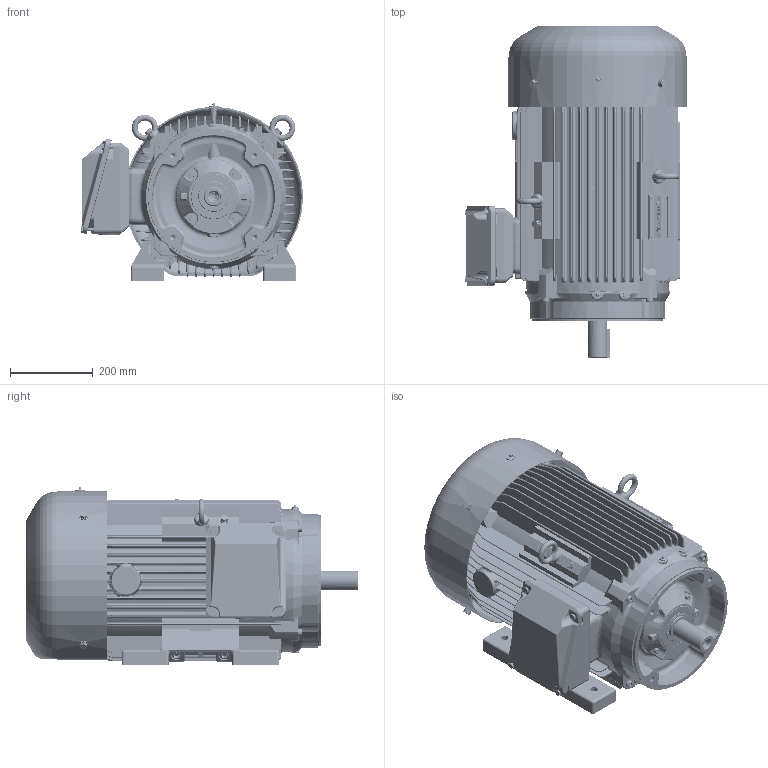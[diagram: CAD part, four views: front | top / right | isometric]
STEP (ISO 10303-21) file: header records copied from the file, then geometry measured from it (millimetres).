
FILE_DESCRIPTION(/* description */ ('Unknown','CAx-IF Rec.Pracs.---Representation and Presentation of Product Manufacturing Information (PMI)---4.0---2014-10-13','CAx-IF Rec.Pracs.---3D Tessellated Geometry---0.4---2014-09-14','2;1'),/* implementation_level */ '2;1');
FILE_NAME(/* name */ 'Silnik SIE324TSCL2, SIE326TSCL2 - do klienta',/* time_stamp */ '2024-07-08T08:30:53+02:00',/* author */ ('Unknown'),/* organization */ ('Unknown'),/* preprocessor_version */ 'ST-DEVELOPER v16.7',/* originating_system */ 'DEX',/* authorisation */ $);
FILE_SCHEMA (('AP242_MANAGED_MODEL_BASED_3D_ENGINEERING_MIM_LF { 1 0 10303 442 20130219 1 4 }'));
Products named in the file (1): Silnik SIE324TSCL2, SIE326TSCL2 - do klienta
Bounding box: 537.53 x 802.3 x 428.11 mm (x, y, z)
Volume: 15561738.6 mm3; surface area: 3936856.7 mm2
Topology: 8 solids, 52 shells, 7986 faces, 20621 edges, 12732 vertices
Faces by surface type: plane 3858, cylinder 2006, bspline 1236, torus 548, cone 251, sphere 87
Full cylindrical faces by diameter (mm): 1.6 x3, 2.5 x4, 3 x8, 3.4 x4, 4.917 x2, 5 x2, 5.867 x1, 6 x1, 6.4 x2, 6.647 x10, 8 x13, 8.376 x3, 8.4 x1, 8.5 x1, 8.917 x1, 9 x8, 9.853 x8, 9.999 x1, 10 x14, 10.106 x9, 10.5 x5, 11.63 x5, 12 x16, 13 x10, 13.376 x4, 13.546 x4, 13.835 x8, 14 x6, 14.63 x5, 16 x9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
Entity records: 275032 total; most frequent: CARTESIAN_POINT 90607, ORIENTED_EDGE 39744, DIRECTION 34719, EDGE_CURVE 19872, VERTEX_POINT 12500, AXIS2_PLACEMENT_3D 11583, LINE 11553, VECTOR 11553
